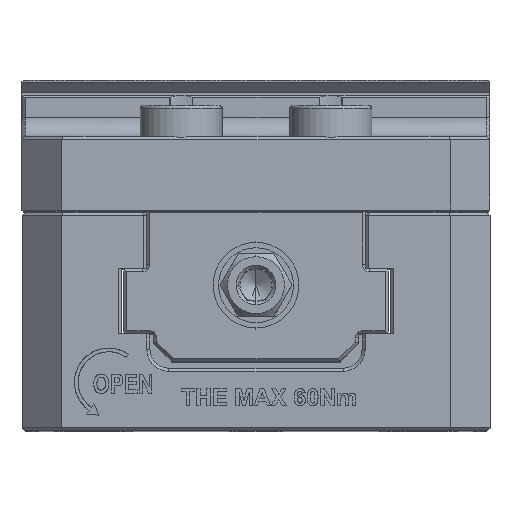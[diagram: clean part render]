
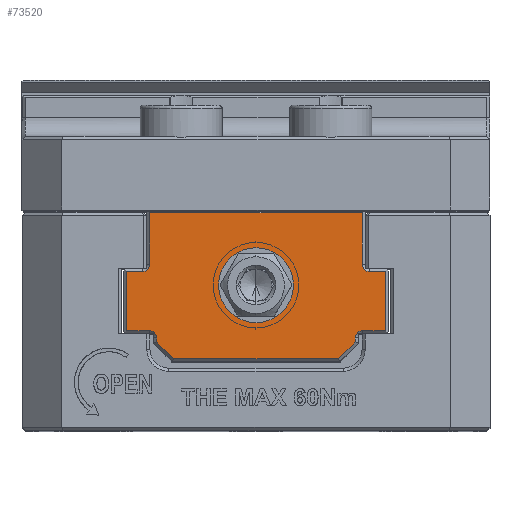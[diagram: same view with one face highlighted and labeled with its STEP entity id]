
A CAD part, top view. The second image highlights one B-rep face of the part: STEP entity #73520.
In plain terms, the highlighted planar face has unit normal (0, 0, 1).
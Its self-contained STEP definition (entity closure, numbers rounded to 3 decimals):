
#71882=CARTESIAN_POINT('',(0.,0.,15.));
#71883=DIRECTION('',(0.,0.,1.));
#71884=DIRECTION('',(-1.,0.,0.));
#71885=AXIS2_PLACEMENT_3D('',#71882,#71883,#71884);
#71887=CARTESIAN_POINT('',(0.,0.,15.));
#71888=DIRECTION('',(0.,0.,1.));
#71889=DIRECTION('',(1.,0.,0.));
#71890=AXIS2_PLACEMENT_3D('',#71887,#71888,#71889);
#71892=DIRECTION('',(-0.707,0.707,0.));
#71893=VECTOR('',#71892,3.828);
#71894=CARTESIAN_POINT('',(-13.218,-11.799,15.));
#71895=LINE('',#71894,#71893);
#71896=CARTESIAN_POINT('',(-17.075,-8.455,15.));
#71897=DIRECTION('',(0.,0.,1.));
#71898=DIRECTION('',(1.,0.,0.));
#71899=AXIS2_PLACEMENT_3D('',#71896,#71897,#71898);
#71901=CARTESIAN_POINT('',(-18.15,3.343,15.));
#71902=DIRECTION('',(0.,0.,1.));
#71903=DIRECTION('',(0.,-1.,0.));
#71904=AXIS2_PLACEMENT_3D('',#71901,#71902,#71903);
#71906=CARTESIAN_POINT('',(18.15,3.343,15.));
#71907=DIRECTION('',(0.,0.,1.));
#71908=DIRECTION('',(-1.,0.,0.));
#71909=AXIS2_PLACEMENT_3D('',#71906,#71907,#71908);
#71911=DIRECTION('',(0.,-1.,0.));
#71912=VECTOR('',#71911,9.498);
#71913=CARTESIAN_POINT('',(20.75,2.193,15.));
#71914=LINE('',#71913,#71912);
#71915=DIRECTION('',(-1.,0.,0.));
#71916=VECTOR('',#71915,3.675);
#71917=CARTESIAN_POINT('',(20.75,-7.305,15.));
#71918=LINE('',#71917,#71916);
#71919=CARTESIAN_POINT('',(17.075,-8.455,15.));
#71920=DIRECTION('',(0.,0.,1.));
#71921=DIRECTION('',(0.,1.,0.));
#71922=AXIS2_PLACEMENT_3D('',#71919,#71920,#71921);
#71924=DIRECTION('',(0.,-1.,0.));
#71925=VECTOR('',#71924,0.637);
#71926=CARTESIAN_POINT('',(15.925,-8.455,
15.));
#71927=LINE('',#71926,#71925);
#71928=DIRECTION('',(-0.707,-0.707,0.));
#71929=VECTOR('',#71928,3.828);
#71930=CARTESIAN_POINT('',(15.925,-9.092,15.));
#71931=LINE('',#71930,#71929);
#71932=DIRECTION('',(1.,0.,0.));
#71933=VECTOR('',#71932,26.436);
#71934=CARTESIAN_POINT('',(-13.218,-11.799,15.));
#71935=LINE('',#71934,#71933);
#72035=DIRECTION('',(-1.,0.,0.));
#72036=VECTOR('',#72035,2.6);
#72037=CARTESIAN_POINT('',(20.75,2.193,15.));
#72038=LINE('',#72037,#72036);
#72127=DIRECTION('',(0.,1.,0.));
#72128=VECTOR('',#72127,8.298);
#72129=CARTESIAN_POINT('',(17.,3.343,15.));
#72130=LINE('',#72129,#72128);
#72139=DIRECTION('',(-1.,0.,0.));
#72140=VECTOR('',#72139,33.999);
#72141=CARTESIAN_POINT('',(17.,11.641,15.));
#72142=LINE('',#72141,#72140);
#72147=DIRECTION('',(0.,-1.,0.));
#72148=VECTOR('',#72147,8.298);
#72149=CARTESIAN_POINT('',(-17.,11.641,15.));
#72150=LINE('',#72149,#72148);
#72250=DIRECTION('',(0.,-1.,0.));
#72251=VECTOR('',#72250,9.498);
#72252=CARTESIAN_POINT('',(-20.75,2.193,15.));
#72253=LINE('',#72252,#72251);
#72254=DIRECTION('',(1.,0.,0.));
#72255=VECTOR('',#72254,3.675);
#72256=CARTESIAN_POINT('',(-20.75,-7.305,15.));
#72257=LINE('',#72256,#72255);
#72316=DIRECTION('',(0.,-1.,0.));
#72317=VECTOR('',#72316,0.637);
#72318=CARTESIAN_POINT('',(-15.925,-8.455,
15.));
#72319=LINE('',#72318,#72317);
#72562=DIRECTION('',(-1.,0.,0.));
#72563=VECTOR('',#72562,2.6);
#72564=CARTESIAN_POINT('',(-18.15,2.193,
15.));
#72565=LINE('',#72564,#72563);
#72923=CARTESIAN_POINT('',(20.75,-7.305,15.));
#72924=CARTESIAN_POINT('',(17.075,-7.305,15.));
#72925=VERTEX_POINT('',#72923);
#72926=VERTEX_POINT('',#72924);
#72927=CARTESIAN_POINT('',(15.925,-8.455,15.));
#72928=VERTEX_POINT('',#72927);
#72929=CARTESIAN_POINT('',(15.925,-9.092,15.));
#72930=VERTEX_POINT('',#72929);
#72931=CARTESIAN_POINT('',(13.218,-11.799,15.));
#72932=VERTEX_POINT('',#72931);
#72933=CARTESIAN_POINT('',(-13.218,-11.799,15.));
#72934=CARTESIAN_POINT('',(-15.925,-9.092,15.));
#72935=VERTEX_POINT('',#72933);
#72936=VERTEX_POINT('',#72934);
#72937=CARTESIAN_POINT('',(-15.925,-8.455,
15.));
#72938=VERTEX_POINT('',#72937);
#72939=CARTESIAN_POINT('',(-17.075,-7.305,15.));
#72940=VERTEX_POINT('',#72939);
#72941=CARTESIAN_POINT('',(-20.75,-7.305,15.));
#72942=VERTEX_POINT('',#72941);
#72943=CARTESIAN_POINT('',(-20.75,2.193,15.));
#72944=VERTEX_POINT('',#72943);
#72945=CARTESIAN_POINT('',(-18.15,2.193,
15.));
#72946=VERTEX_POINT('',#72945);
#72947=CARTESIAN_POINT('',(-17.,3.343,15.));
#72948=VERTEX_POINT('',#72947);
#72949=CARTESIAN_POINT('',(-17.,11.641,15.));
#72950=VERTEX_POINT('',#72949);
#72951=CARTESIAN_POINT('',(17.,11.641,15.));
#72952=VERTEX_POINT('',#72951);
#72953=CARTESIAN_POINT('',(17.,3.343,15.));
#72954=VERTEX_POINT('',#72953);
#72955=CARTESIAN_POINT('',(18.15,2.193,15.));
#72956=VERTEX_POINT('',#72955);
#72957=CARTESIAN_POINT('',(20.75,2.193,15.));
#72958=VERTEX_POINT('',#72957);
#73091=CARTESIAN_POINT('',(-6.,0.,15.));
#73092=CARTESIAN_POINT('',(6.,0.,15.));
#73093=VERTEX_POINT('',#73091);
#73094=VERTEX_POINT('',#73092);
#73473=CARTESIAN_POINT('',(0.,0.,15.));
#73474=DIRECTION('',(0.,0.,1.));
#73475=DIRECTION('',(1.,0.,0.));
#73476=AXIS2_PLACEMENT_3D('',#73473,#73474,#73475);
#73477=PLANE('',#73476);
#73479=ORIENTED_EDGE('',*,*,#73478,.F.);
#73481=ORIENTED_EDGE('',*,*,#73480,.T.);
#73483=ORIENTED_EDGE('',*,*,#73482,.F.);
#73485=ORIENTED_EDGE('',*,*,#73484,.T.);
#73487=ORIENTED_EDGE('',*,*,#73486,.F.);
#73489=ORIENTED_EDGE('',*,*,#73488,.F.);
#73491=ORIENTED_EDGE('',*,*,#73490,.F.);
#73493=ORIENTED_EDGE('',*,*,#73492,.T.);
#73495=ORIENTED_EDGE('',*,*,#73494,.F.);
#73497=ORIENTED_EDGE('',*,*,#73496,.F.);
#73499=ORIENTED_EDGE('',*,*,#73498,.F.);
#73501=ORIENTED_EDGE('',*,*,#73500,.T.);
#73503=ORIENTED_EDGE('',*,*,#73502,.F.);
#73505=ORIENTED_EDGE('',*,*,#73504,.T.);
#73507=ORIENTED_EDGE('',*,*,#73506,.T.);
#73509=ORIENTED_EDGE('',*,*,#73508,.T.);
#73511=ORIENTED_EDGE('',*,*,#73510,.T.);
#73513=ORIENTED_EDGE('',*,*,#73512,.T.);
#73514=EDGE_LOOP('',(#73479,#73481,#73483,#73485,#73487,#73489,#73491,#73493,
#73495,#73497,#73499,#73501,#73503,#73505,#73507,#73509,#73511,#73513));
#73515=FACE_OUTER_BOUND('',#73514,.F.);
#73516=ORIENTED_EDGE('',*,*,#73453,.T.);
#73517=ORIENTED_EDGE('',*,*,#73467,.T.);
#73518=EDGE_LOOP('',(#73516,#73517));
#73519=FACE_BOUND('',#73518,.F.);
#73520=ADVANCED_FACE('',(#73515,#73519),#73477,.T.);
#71886=CIRCLE('',#71885,6.);
#71891=CIRCLE('',#71890,6.);
#71900=CIRCLE('',#71899,1.15);
#71905=CIRCLE('',#71904,1.15);
#71910=CIRCLE('',#71909,1.15);
#71923=CIRCLE('',#71922,1.15);
#73453=EDGE_CURVE('',#73093,#73094,#71886,.T.);
#73467=EDGE_CURVE('',#73094,#73093,#71891,.T.);
#73478=EDGE_CURVE('',#72935,#72932,#71935,.T.);
#73480=EDGE_CURVE('',#72935,#72936,#71895,.T.);
#73482=EDGE_CURVE('',#72938,#72936,#72319,.T.);
#73484=EDGE_CURVE('',#72938,#72940,#71900,.T.);
#73486=EDGE_CURVE('',#72942,#72940,#72257,.T.);
#73488=EDGE_CURVE('',#72944,#72942,#72253,.T.);
#73490=EDGE_CURVE('',#72946,#72944,#72565,.T.);
#73492=EDGE_CURVE('',#72946,#72948,#71905,.T.);
#73494=EDGE_CURVE('',#72950,#72948,#72150,.T.);
#73496=EDGE_CURVE('',#72952,#72950,#72142,.T.);
#73498=EDGE_CURVE('',#72954,#72952,#72130,.T.);
#73500=EDGE_CURVE('',#72954,#72956,#71910,.T.);
#73502=EDGE_CURVE('',#72958,#72956,#72038,.T.);
#73504=EDGE_CURVE('',#72958,#72925,#71914,.T.);
#73506=EDGE_CURVE('',#72925,#72926,#71918,.T.);
#73508=EDGE_CURVE('',#72926,#72928,#71923,.T.);
#73510=EDGE_CURVE('',#72928,#72930,#71927,.T.);
#73512=EDGE_CURVE('',#72930,#72932,#71931,.T.);
